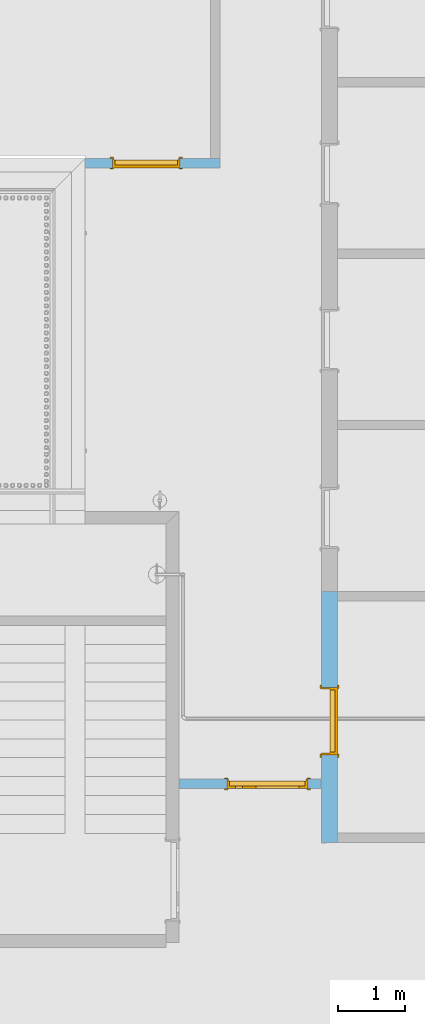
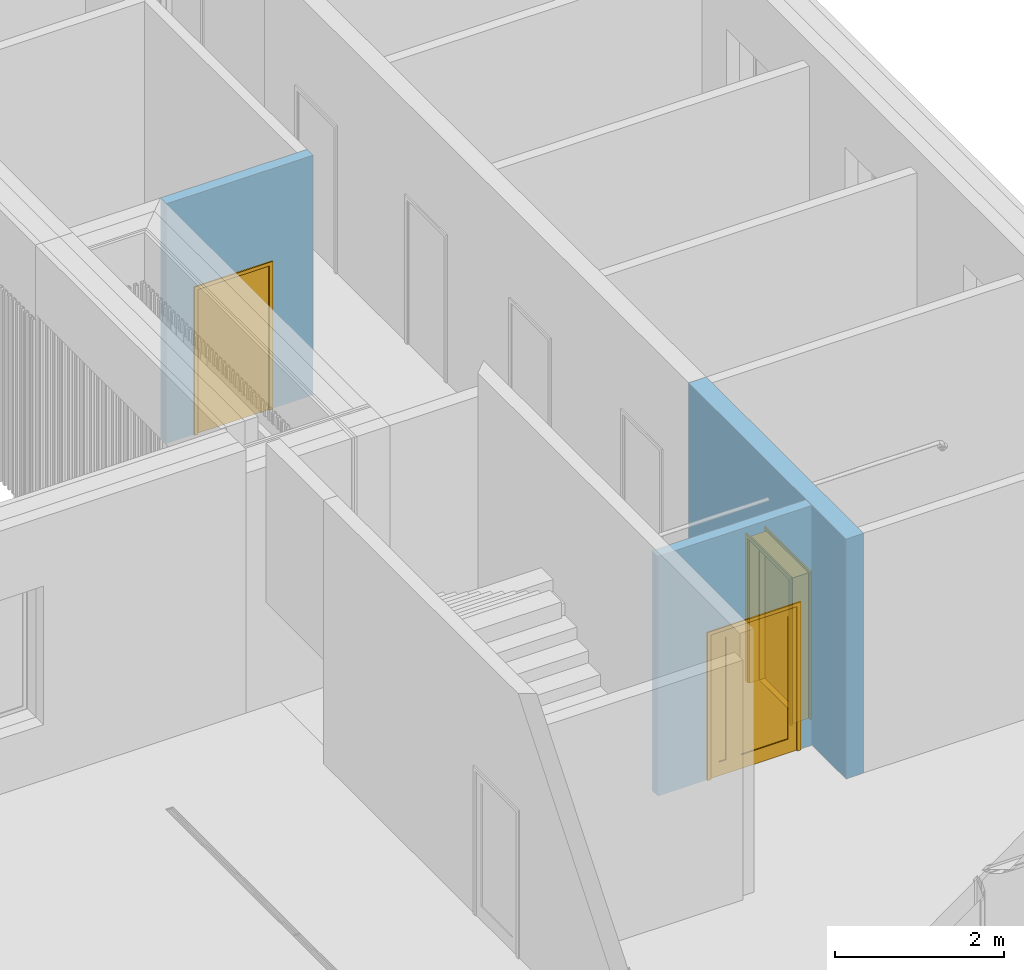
# One storey, part 46 of 112: 3 doors, 3 openings, plus 3 elements that do not belong to this part.
"""IFC2X3 building model written with IfcOpenShell, lengths in millimetres."""

from ifc_helpers import new_model, entity, si_unit, converted_unit, derived_unit, money_unit, direction, frame, origin_with_axes, origin_2d_with_axis, place, context, subcontext, project, spatial, polyline, rectangle, outline, extrude, open_shell, faceted_brep, surface_model, material, layer, layer_set, layer_usage, type_object, element, fill, save


model = new_model("IFC2X3")

# Units and contexts
model_context = context("Model", 3, precision=0.01, world=origin_with_axes(), true_north=direction((0.0, 1.0)))
body_context = subcontext(model_context, "Body", "Model", "MODEL_VIEW")
ifc_project = project(units=[si_unit("LENGTHUNIT", "METRE", prefix="MILLI"), si_unit("AREAUNIT", "SQUARE_METRE"), si_unit("VOLUMEUNIT", "CUBIC_METRE"), converted_unit("PLANEANGLEUNIT", "DEGREE", entity("IfcPlaneAngleMeasure", 0.0174532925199), si_unit("PLANEANGLEUNIT", "RADIAN"), dimensions=[0, 0, 0, 0, 0, 0, 0]), si_unit("SOLIDANGLEUNIT", "STERADIAN"), money_unit("EUR"), converted_unit("TIMEUNIT", "Year", entity("IfcTimeMeasure", 31556926.0), si_unit("TIMEUNIT", "SECOND"), dimensions=[0, 0, 1, 0, 0, 0, 0]), si_unit("MASSUNIT", "GRAM", prefix="KILO"), si_unit("THERMODYNAMICTEMPERATUREUNIT", "DEGREE_CELSIUS"), si_unit("LUMINOUSINTENSITYUNIT", "LUMEN"), si_unit("ENERGYUNIT", "JOULE", prefix="MEGA"), derived_unit("THERMALCONDUCTANCEUNIT", [(si_unit("POWERUNIT", "WATT"), 1), (si_unit("LENGTHUNIT", "METRE"), -1), (si_unit("THERMODYNAMICTEMPERATUREUNIT", "KELVIN"), -1)]), derived_unit("SPECIFICHEATCAPACITYUNIT", [(si_unit("ENERGYUNIT", "JOULE"), 1), (si_unit("MASSUNIT", "GRAM", prefix="KILO"), -1), (si_unit("THERMODYNAMICTEMPERATUREUNIT", "KELVIN"), -1)]), derived_unit("MASSDENSITYUNIT", [(si_unit("MASSUNIT", "GRAM", prefix="KILO"), 1), (si_unit("VOLUMEUNIT", "CUBIC_METRE"), -1)])], contexts=[model_context])

# Site, building, storey
site_placement = place(None, origin_with_axes())
site = spatial("IfcSite", under=ifc_project, at=site_placement, Name="Politse- ja Piirivalveameti ning Päästeameti ühishoone", CompositionType="ELEMENT")
building_placement = place(site_placement, origin_with_axes())
building = spatial("IfcBuilding", under=site, at=building_placement, Name="Politse- ja Piirivalveameti ning Päästeameti ühishoone", CompositionType="ELEMENT")
storey_placement = place(building_placement, origin_with_axes())
storey = spatial("IfcBuildingStorey", under=building, at=storey_placement, Name="Esimene korrus", CompositionType="ELEMENT", Elevation=0.0)

# Wall, opening, door
ifc_material = material(Name="KON-05_Betoon Plokk - Konstuktsioon")
ifc_layer_1 = layer(ifc_material, 240.0, ventilated="UNKNOWN")
ifc_layer_set_1 = layer_set([ifc_layer_1], Name="SS-04_Sisesein 240")
ifc_layer_usage_1 = layer_usage(ifc_layer_set_1, "AXIS2", "NEGATIVE", 240.0)
wall_type_1 = type_object("IfcWallType", Name="SS-04_Sisesein 240 240", PredefinedType="NOTDEFINED")
wall_1_placement = place(storey_placement, frame((65160.5595507, 19999.809139, 0.0), z_axis=(0.0, 0.0, 1.0), x_axis=(0.0, -1.0, 0.0)))
wall_1 = element("IfcWallStandardCase", 1, at=wall_1_placement, inside=storey, type_object=wall_type_1, material=ifc_layer_usage_1, Name="SS-04", context=body_context, shape_type="SweptSolid", body=[
    extrude(outline(polyline([(0.0, 0.0), (3722.0, 0.0), (3717.0, 240.0), (0.0, 240.0), (0.0, 0.0)])), origin_with_axes(), (0.0, 0.0, 1.0), 3460.0),
])
opening_1_placement = place(wall_1_placement, frame((1918.0, 0.0, 0.0), z_axis=(0.0, 0.0, 1.0), x_axis=(1.0, 0.0, 0.0)))
opening_1 = element("IfcOpeningElement", 2, at=opening_1_placement, cuts=wall_1, Name="TU-01-8", context=body_context, shape_type="SweptSolid", body=[
    extrude(rectangle(XDim=1000.0, YDim=2100.0, at=origin_2d_with_axis()), frame((0.0, -240.0, 1050.0), z_axis=(0.0, -1.0, 0.0), x_axis=(-1.0, 0.0, 0.0)), (0.0, 0.0, -1.0), 720.0),
    extrude(rectangle(XDim=1074.0, YDim=2137.0, at=origin_2d_with_axis()), frame((0.0, 0.0, 1068.5), z_axis=(0.0, -1.0, 0.0), x_axis=(-1.0, 0.0, 0.0)), (0.0, 0.0, 1.0), 240.0),
    extrude(rectangle(XDim=1074.0, YDim=2137.0, at=origin_2d_with_axis()), frame((0.0, 240.0, 1068.5), z_axis=(0.0, 1.0, 0.0), x_axis=(-1.0, 0.0, 0.0)), (0.0, 0.0, 1.0), 240.0),
])
door_style_1 = type_object("IfcDoorStyle", Name="Door 23", ConstructionType="NOTDEFINED", OperationType="SINGLE_SWING_LEFT", ParameterTakesPrecedence=False, Sizeable=False)
door_1_placement = place(opening_1_placement, frame((-500.0, 0.0, 0.0), z_axis=(0.0, 0.0, 1.0), x_axis=(1.0, 0.0, 0.0)))
door_1 = element("IfcDoor", 3, at=door_1_placement, inside=storey, type_object=door_style_1, Name="TU-01-8", ObjectType="DOOR", OverallHeight=2100.0, OverallWidth=1000.0, context=body_context, shape_type="Brep", body=[
    faceted_brep([(28.0, 200.0, 0.0), (40.0, 200.0, 0.0), (40.0, 200.0, 12.0), (28.0, 200.0, 12.0), (972.0, 200.0, 0.0), (960.0, 200.0, 0.0), (960.0, 125.0, 0.0), (40.0, 125.0, 0.0), (40.0, 125.0, 12.0), (960.0, 125.0, 12.0), (960.0, 200.0, 12.0), (972.0, 200.0, 12.0)], [[[0, 1, 2, 3]], [[0, 4, 5, 6, 7, 1]], [[1, 7, 8, 2]], [[3, 2, 8, 9, 10, 11]], [[4, 0, 3, 11]], [[5, 4, 11, 10]], [[6, 5, 10, 9]], [[7, 6, 9, 8]]]),
    faceted_brep([(1000.0, 125.0, 0.0), (1000.0, 0.0, 0.0), (975.0, 0.0, 0.0), (975.0, 125.0, 0.0), (1000.0, 125.0, 2100.0), (1000.0, 0.0, 2100.0), (975.0, 0.0, 2075.0), (975.0, 125.0, 2075.0)], [[[0, 1, 2, 3]], [[4, 5, 1, 0]], [[1, 5, 6, 2]], [[3, 2, 6, 7]], [[0, 3, 7, 4]], [[7, 6, 5, 4]]]),
    faceted_brep([(0.0, 125.0, 2100.0), (0.0, 0.0, 2100.0), (25.0, 0.0, 2075.0), (25.0, 125.0, 2075.0), (0.0, 125.0, 0.0), (0.0, 0.0, 0.0), (25.0, 0.0, 0.0), (25.0, 125.0, 0.0)], [[[0, 1, 2, 3]], [[4, 5, 1, 0]], [[1, 5, 6, 2]], [[3, 2, 6, 7]], [[0, 3, 7, 4]], [[7, 6, 5, 4]]]),
    faceted_brep([(975.0, 125.0, 2075.0), (975.0, 0.0, 2075.0), (25.0, 0.0, 2075.0), (25.0, 125.0, 2075.0), (1000.0, 125.0, 2100.0), (1000.0, 0.0, 2100.0), (0.0, 0.0, 2100.0), (0.0, 125.0, 2100.0)], [[[0, 1, 2, 3]], [[4, 5, 1, 0]], [[1, 5, 6, 2]], [[3, 2, 6, 7]], [[0, 3, 7, 4]], [[7, 6, 5, 4]]]),
    faceted_brep([(1037.0, -19.0, 0.0), (987.0, -19.0, 0.0), (987.0, 0.0, 0.0), (1037.0, 0.0, 0.0), (1037.0, -19.0, 2137.0), (987.0, -19.0, 2087.0), (987.0, 0.0, 2087.0), (1037.0, 0.0, 2137.0)], [[[0, 1, 2, 3]], [[0, 4, 5, 1]], [[1, 5, 6, 2]], [[3, 2, 6, 7]], [[4, 0, 3, 7]], [[5, 4, 7, 6]]]),
    faceted_brep([(-37.0, -19.0, 2137.0), (13.0, -19.0, 2087.0), (13.0, 0.0, 2087.0), (-37.0, 0.0, 2137.0), (-37.0, -19.0, 0.0), (13.0, -19.0, 0.0), (13.0, 0.0, 0.0), (-37.0, 0.0, 0.0)], [[[0, 1, 2, 3]], [[0, 4, 5, 1]], [[1, 5, 6, 2]], [[3, 2, 6, 7]], [[4, 0, 3, 7]], [[5, 4, 7, 6]]]),
    faceted_brep([(1037.0, -19.0, 2137.0), (987.0, -19.0, 2087.0), (987.0, 0.0, 2087.0), (1037.0, 0.0, 2137.0), (-37.0, -19.0, 2137.0), (13.0, -19.0, 2087.0), (13.0, 0.0, 2087.0), (-37.0, 0.0, 2137.0)], [[[0, 1, 2, 3]], [[0, 4, 5, 1]], [[1, 5, 6, 2]], [[3, 2, 6, 7]], [[4, 0, 3, 7]], [[5, 4, 7, 6]]]),
    faceted_brep([(1037.0, 259.0, 0.0), (1037.0, 240.0, 0.0), (987.0, 240.0, 0.0), (987.0, 259.0, 0.0), (1037.0, 259.0, 2137.0), (1037.0, 240.0, 2137.0), (987.0, 240.0, 2087.0), (987.0, 259.0, 2087.0)], [[[0, 1, 2, 3]], [[4, 5, 1, 0]], [[1, 5, 6, 2]], [[3, 2, 6, 7]], [[0, 3, 7, 4]], [[7, 6, 5, 4]]]),
    faceted_brep([(-37.0, 259.0, 2137.0), (-37.0, 240.0, 2137.0), (13.0, 240.0, 2087.0), (13.0, 259.0, 2087.0), (-37.0, 259.0, 0.0), (-37.0, 240.0, 0.0), (13.0, 240.0, 0.0), (13.0, 259.0, 0.0)], [[[0, 1, 2, 3]], [[4, 5, 1, 0]], [[1, 5, 6, 2]], [[3, 2, 6, 7]], [[0, 3, 7, 4]], [[7, 6, 5, 4]]]),
    faceted_brep([(1037.0, 259.0, 2137.0), (1037.0, 240.0, 2137.0), (987.0, 240.0, 2087.0), (987.0, 259.0, 2087.0), (-37.0, 259.0, 2137.0), (-37.0, 240.0, 2137.0), (13.0, 240.0, 2087.0), (13.0, 259.0, 2087.0)], [[[0, 1, 2, 3]], [[4, 5, 1, 0]], [[1, 5, 6, 2]], [[3, 2, 6, 7]], [[0, 3, 7, 4]], [[7, 6, 5, 4]]]),
    faceted_brep([(960.0, 200.0, 0.0), (960.0, 125.0, 0.0), (960.0, 125.0, 2060.0), (960.0, 200.0, 2060.0), (972.0, 200.0, 0.0), (972.0, 240.0, 0.0), (1000.0, 240.0, 0.0), (1000.0, 125.0, 0.0), (1000.0, 125.0, 2060.0), (972.0, 200.0, 2060.0), (1000.0, 240.0, 2060.0), (972.0, 240.0, 2060.0)], [[[0, 1, 2, 3]], [[4, 5, 6, 7, 1, 0]], [[1, 7, 8, 2]], [[9, 3, 2, 8, 10, 11]], [[9, 4, 0, 3]], [[11, 5, 4, 9]], [[11, 10, 6, 5]], [[6, 10, 8, 7]]]),
    faceted_brep([(28.0, 200.0, 2060.0), (28.0, 240.0, 2060.0), (0.0, 240.0, 2060.0), (0.0, 125.0, 2060.0), (40.0, 125.0, 2060.0), (40.0, 200.0, 2060.0), (28.0, 200.0, 0.0), (28.0, 240.0, 0.0), (0.0, 240.0, 0.0), (0.0, 125.0, 0.0), (40.0, 125.0, 0.0), (40.0, 200.0, 0.0)], [[[0, 1, 2, 3, 4, 5]], [[0, 6, 7, 1]], [[7, 8, 2, 1]], [[2, 8, 9, 3]], [[3, 9, 10, 4]], [[5, 4, 10, 11]], [[5, 11, 6, 0]], [[6, 11, 10, 9, 8, 7]]]),
    faceted_brep([(972.0, 240.0, 2072.0), (28.0, 240.0, 2072.0), (28.0, 240.0, 2060.0), (0.0, 240.0, 2060.0), (0.0, 240.0, 2100.0), (1000.0, 240.0, 2100.0), (1000.0, 240.0, 2060.0), (972.0, 240.0, 2060.0), (972.0, 200.0, 2072.0), (28.0, 200.0, 2072.0), (28.0, 200.0, 2060.0), (40.0, 200.0, 2060.0), (40.0, 125.0, 2060.0), (0.0, 125.0, 2060.0), (0.0, 125.0, 2100.0), (1000.0, 125.0, 2100.0), (1000.0, 125.0, 2060.0), (972.0, 200.0, 2060.0), (960.0, 125.0, 2060.0), (960.0, 200.0, 2060.0)], [[[0, 1, 2, 3, 4, 5, 6, 7]], [[0, 8, 9, 1]], [[1, 9, 10, 2]], [[10, 11, 12, 13, 3, 2]], [[4, 3, 13, 14]], [[5, 4, 14, 15]], [[6, 5, 15, 16]], [[17, 7, 6, 16, 18, 19]], [[7, 17, 8, 0]], [[10, 9, 8, 17, 19, 11]], [[19, 18, 12, 11]], [[12, 18, 16, 15, 14, 13]]]),
    faceted_brep([(28.0, 240.0, 0.0), (972.0, 240.0, 0.0), (972.0, 200.0, 0.0), (28.0, 200.0, 0.0), (28.0, 240.0, 2072.0), (972.0, 240.0, 2072.0), (972.0, 200.0, 2072.0), (28.0, 200.0, 2072.0)], [[[0, 1, 2, 3]], [[0, 4, 5, 1]], [[1, 5, 6, 2]], [[3, 2, 6, 7]], [[4, 0, 3, 7]], [[5, 4, 7, 6]]]),
])
fill(opening_1, door_1)

ifc_layer_2 = layer(ifc_material, 140.0, ventilated="UNKNOWN")
ifc_layer_set_2 = layer_set([ifc_layer_2], Name="SS-02_Sisesein 140")
ifc_layer_usage_2 = layer_usage(ifc_layer_set_2, "AXIS2", "NEGATIVE", 140.0)
wall_type_2 = type_object("IfcWallType", Name="SS-02_Sisesein 140 140", PredefinedType="NOTDEFINED")
wall_2_placement = place(storey_placement, frame((63660.557259, 26419.9520832, 0.0), z_axis=(0.0, 0.0, 1.0), x_axis=(-1.0, 0.0, 0.0)))
wall_2 = element("IfcWallStandardCase", 4, at=wall_2_placement, inside=storey, type_object=wall_type_2, material=ifc_layer_usage_2, Name="SS-02", context=body_context, shape_type="SweptSolid", body=[
    extrude(outline(polyline([(0.0, 0.0), (2000.00534722, 0.0), (2000.00534722, 140.0), (0.0, 140.0), (0.0, 0.0)])), origin_with_axes(), (0.0, 0.0, 1.0), 3460.0),
])
opening_2_placement = place(wall_2_placement, frame((1095.00267361, 0.0, 0.0), z_axis=(0.0, 0.0, 1.0), x_axis=(1.0, 0.0, 0.0)))
opening_2 = element("IfcOpeningElement", 5, at=opening_2_placement, cuts=wall_2, Name="TU-01-8", context=body_context, shape_type="SweptSolid", body=[
    extrude(rectangle(XDim=1000.0, YDim=2100.0, at=origin_2d_with_axis()), frame((0.0, -140.0, 1050.0), z_axis=(0.0, -1.0, 0.0), x_axis=(-1.0, 0.0, 0.0)), (0.0, 0.0, -1.0), 420.0),
    extrude(rectangle(XDim=1074.0, YDim=2137.0, at=origin_2d_with_axis()), frame((0.0, 0.0, 1068.5), z_axis=(0.0, -1.0, 0.0), x_axis=(-1.0, 0.0, 0.0)), (0.0, 0.0, 1.0), 140.0),
    extrude(rectangle(XDim=1074.0, YDim=2137.0, at=origin_2d_with_axis()), frame((0.0, 140.0, 1068.5), z_axis=(0.0, 1.0, 0.0), x_axis=(-1.0, 0.0, 0.0)), (0.0, 0.0, 1.0), 140.0),
])
door_2_placement = place(opening_2_placement, frame((-500.0, 0.0, 0.0), z_axis=(0.0, 0.0, 1.0), x_axis=(1.0, 0.0, 0.0)))
door_2 = element("IfcDoor", 6, at=door_2_placement, inside=storey, type_object=door_style_1, Name="TU-01-8", ObjectType="DOOR", OverallHeight=2100.0, OverallWidth=1000.0, context=body_context, shape_type="Brep", body=[
    faceted_brep([(28.0, 100.0, 0.0), (40.0, 100.0, 0.0), (40.0, 100.0, 12.0), (28.0, 100.0, 12.0), (972.0, 100.0, 0.0), (960.0, 100.0, 0.0), (960.0, 25.0, 0.0), (40.0, 25.0, 0.0), (40.0, 25.0, 12.0), (960.0, 25.0, 12.0), (960.0, 100.0, 12.0), (972.0, 100.0, 12.0)], [[[0, 1, 2, 3]], [[0, 4, 5, 6, 7, 1]], [[1, 7, 8, 2]], [[3, 2, 8, 9, 10, 11]], [[4, 0, 3, 11]], [[5, 4, 11, 10]], [[6, 5, 10, 9]], [[7, 6, 9, 8]]]),
    faceted_brep([(1000.0, 25.0, 0.0), (1000.0, 0.0, 0.0), (975.0, 0.0, 0.0), (975.0, 25.0, 0.0), (1000.0, 25.0, 2100.0), (1000.0, 0.0, 2100.0), (975.0, 0.0, 2075.0), (975.0, 25.0, 2075.0)], [[[0, 1, 2, 3]], [[4, 5, 1, 0]], [[1, 5, 6, 2]], [[3, 2, 6, 7]], [[0, 3, 7, 4]], [[7, 6, 5, 4]]]),
    faceted_brep([(0.0, 25.0, 2100.0), (0.0, 0.0, 2100.0), (25.0, 0.0, 2075.0), (25.0, 25.0, 2075.0), (0.0, 25.0, 0.0), (0.0, 0.0, 0.0), (25.0, 0.0, 0.0), (25.0, 25.0, 0.0)], [[[0, 1, 2, 3]], [[4, 5, 1, 0]], [[1, 5, 6, 2]], [[3, 2, 6, 7]], [[0, 3, 7, 4]], [[7, 6, 5, 4]]]),
    faceted_brep([(975.0, 25.0, 2075.0), (975.0, 0.0, 2075.0), (25.0, 0.0, 2075.0), (25.0, 25.0, 2075.0), (1000.0, 25.0, 2100.0), (1000.0, 0.0, 2100.0), (0.0, 0.0, 2100.0), (0.0, 25.0, 2100.0)], [[[0, 1, 2, 3]], [[4, 5, 1, 0]], [[1, 5, 6, 2]], [[3, 2, 6, 7]], [[0, 3, 7, 4]], [[7, 6, 5, 4]]]),
    faceted_brep([(1037.0, -19.0, 0.0), (987.0, -19.0, 0.0), (987.0, 0.0, 0.0), (1037.0, 0.0, 0.0), (1037.0, -19.0, 2137.0), (987.0, -19.0, 2087.0), (987.0, 0.0, 2087.0), (1037.0, 0.0, 2137.0)], [[[0, 1, 2, 3]], [[0, 4, 5, 1]], [[1, 5, 6, 2]], [[3, 2, 6, 7]], [[4, 0, 3, 7]], [[5, 4, 7, 6]]]),
    faceted_brep([(-37.0, -19.0, 2137.0), (13.0, -19.0, 2087.0), (13.0, 0.0, 2087.0), (-37.0, 0.0, 2137.0), (-37.0, -19.0, 0.0), (13.0, -19.0, 0.0), (13.0, 0.0, 0.0), (-37.0, 0.0, 0.0)], [[[0, 1, 2, 3]], [[0, 4, 5, 1]], [[1, 5, 6, 2]], [[3, 2, 6, 7]], [[4, 0, 3, 7]], [[5, 4, 7, 6]]]),
    faceted_brep([(1037.0, -19.0, 2137.0), (987.0, -19.0, 2087.0), (987.0, 0.0, 2087.0), (1037.0, 0.0, 2137.0), (-37.0, -19.0, 2137.0), (13.0, -19.0, 2087.0), (13.0, 0.0, 2087.0), (-37.0, 0.0, 2137.0)], [[[0, 1, 2, 3]], [[0, 4, 5, 1]], [[1, 5, 6, 2]], [[3, 2, 6, 7]], [[4, 0, 3, 7]], [[5, 4, 7, 6]]]),
    faceted_brep([(1037.0, 159.0, 0.0), (1037.0, 140.0, 0.0), (987.0, 140.0, 0.0), (987.0, 159.0, 0.0), (1037.0, 159.0, 2137.0), (1037.0, 140.0, 2137.0), (987.0, 140.0, 2087.0), (987.0, 159.0, 2087.0)], [[[0, 1, 2, 3]], [[4, 5, 1, 0]], [[1, 5, 6, 2]], [[3, 2, 6, 7]], [[0, 3, 7, 4]], [[7, 6, 5, 4]]]),
    faceted_brep([(-37.0, 159.0, 2137.0), (-37.0, 140.0, 2137.0), (13.0, 140.0, 2087.0), (13.0, 159.0, 2087.0), (-37.0, 159.0, 0.0), (-37.0, 140.0, 0.0), (13.0, 140.0, 0.0), (13.0, 159.0, 0.0)], [[[0, 1, 2, 3]], [[4, 5, 1, 0]], [[1, 5, 6, 2]], [[3, 2, 6, 7]], [[0, 3, 7, 4]], [[7, 6, 5, 4]]]),
    faceted_brep([(1037.0, 159.0, 2137.0), (1037.0, 140.0, 2137.0), (987.0, 140.0, 2087.0), (987.0, 159.0, 2087.0), (-37.0, 159.0, 2137.0), (-37.0, 140.0, 2137.0), (13.0, 140.0, 2087.0), (13.0, 159.0, 2087.0)], [[[0, 1, 2, 3]], [[4, 5, 1, 0]], [[1, 5, 6, 2]], [[3, 2, 6, 7]], [[0, 3, 7, 4]], [[7, 6, 5, 4]]]),
    faceted_brep([(960.0, 100.0, 0.0), (960.0, 25.0, 0.0), (960.0, 25.0, 2060.0), (960.0, 100.0, 2060.0), (972.0, 100.0, 0.0), (972.0, 140.0, 0.0), (1000.0, 140.0, 0.0), (1000.0, 25.0, 0.0), (1000.0, 25.0, 2060.0), (972.0, 100.0, 2060.0), (1000.0, 140.0, 2060.0), (972.0, 140.0, 2060.0)], [[[0, 1, 2, 3]], [[4, 5, 6, 7, 1, 0]], [[1, 7, 8, 2]], [[9, 3, 2, 8, 10, 11]], [[9, 4, 0, 3]], [[11, 5, 4, 9]], [[11, 10, 6, 5]], [[6, 10, 8, 7]]]),
    faceted_brep([(28.0, 100.0, 2060.0), (28.0, 140.0, 2060.0), (0.0, 140.0, 2060.0), (0.0, 25.0, 2060.0), (40.0, 25.0, 2060.0), (40.0, 100.0, 2060.0), (28.0, 100.0, 0.0), (28.0, 140.0, 0.0), (0.0, 140.0, 0.0), (0.0, 25.0, 0.0), (40.0, 25.0, 0.0), (40.0, 100.0, 0.0)], [[[0, 1, 2, 3, 4, 5]], [[0, 6, 7, 1]], [[7, 8, 2, 1]], [[2, 8, 9, 3]], [[3, 9, 10, 4]], [[5, 4, 10, 11]], [[5, 11, 6, 0]], [[6, 11, 10, 9, 8, 7]]]),
    faceted_brep([(972.0, 140.0, 2072.0), (28.0, 140.0, 2072.0), (28.0, 140.0, 2060.0), (0.0, 140.0, 2060.0), (0.0, 140.0, 2100.0), (1000.0, 140.0, 2100.0), (1000.0, 140.0, 2060.0), (972.0, 140.0, 2060.0), (972.0, 100.0, 2072.0), (28.0, 100.0, 2072.0), (28.0, 100.0, 2060.0), (40.0, 100.0, 2060.0), (40.0, 25.0, 2060.0), (0.0, 25.0, 2060.0), (0.0, 25.0, 2100.0), (1000.0, 25.0, 2100.0), (1000.0, 25.0, 2060.0), (972.0, 100.0, 2060.0), (960.0, 25.0, 2060.0), (960.0, 100.0, 2060.0)], [[[0, 1, 2, 3, 4, 5, 6, 7]], [[0, 8, 9, 1]], [[1, 9, 10, 2]], [[10, 11, 12, 13, 3, 2]], [[4, 3, 13, 14]], [[5, 4, 14, 15]], [[6, 5, 15, 16]], [[17, 7, 6, 16, 18, 19]], [[7, 17, 8, 0]], [[10, 9, 8, 17, 19, 11]], [[19, 18, 12, 11]], [[12, 18, 16, 15, 14, 13]]]),
    faceted_brep([(28.0, 140.0, 0.0), (972.0, 140.0, 0.0), (972.0, 100.0, 0.0), (28.0, 100.0, 0.0), (28.0, 140.0, 2072.0), (972.0, 140.0, 2072.0), (972.0, 100.0, 2072.0), (28.0, 100.0, 2072.0)], [[[0, 1, 2, 3]], [[0, 4, 5, 1]], [[1, 5, 6, 2]], [[3, 2, 6, 7]], [[4, 0, 3, 7]], [[5, 4, 7, 6]]]),
])
fill(opening_2, door_2)

ifc_layer_usage_3 = layer_usage(ifc_layer_set_2, "AXIS2", "NEGATIVE", 140.0)
wall_3_placement = place(storey_placement, frame((65160.5595507, 17222.809139, 0.0), z_axis=(0.0, 0.0, 1.0), x_axis=(-1.0, 0.0, 0.0)))
wall_3 = element("IfcWallStandardCase", 7, at=wall_3_placement, inside=storey, type_object=wall_type_2, material=ifc_layer_usage_3, Name="SS-02", context=body_context, shape_type="SweptSolid", body=[
    extrude(outline(polyline([(5.0, 0.0), (2105.00229167, 0.0), (2105.00229167, 140.0), (5.0, 140.0), (5.0, 0.0)])), origin_with_axes(), (0.0, 0.0, 1.0), 3460.0),
])
opening_3_placement = place(wall_3_placement, frame((800.0, 0.0, 0.0), z_axis=(0.0, 0.0, 1.0), x_axis=(1.0, 0.0, 0.0)))
opening_3 = element("IfcOpeningElement", 8, at=opening_3_placement, cuts=wall_3, Name="TU-01-4", context=body_context, shape_type="SweptSolid", body=[
    extrude(rectangle(XDim=1200.0, YDim=2100.0, at=origin_2d_with_axis()), frame((0.0, -140.0, 1050.0), z_axis=(0.0, 1.0, 0.0), x_axis=(1.0, 0.0, 0.0)), (0.0, 0.0, 1.0), 420.0),
    extrude(rectangle(XDim=1274.0, YDim=2137.0, at=origin_2d_with_axis()), frame((0.0, 0.0, 1068.5), z_axis=(0.0, 1.0, 0.0), x_axis=(1.0, 0.0, 0.0)), (0.0, 0.0, -1.0), 140.0),
    extrude(rectangle(XDim=1274.0, YDim=2137.0, at=origin_2d_with_axis()), frame((0.0, 140.0, 1068.5), z_axis=(0.0, -1.0, 0.0), x_axis=(1.0, 0.0, 0.0)), (0.0, 0.0, -1.0), 140.0),
])
door_style_2 = type_object("IfcDoorStyle", Name="Double Door Asymmetric 23", ConstructionType="NOTDEFINED", OperationType="DOUBLE_DOOR_SINGLE_SWING", ParameterTakesPrecedence=False, Sizeable=False)
door_3_placement = place(opening_3_placement, frame((-600.0, 0.0, 0.0), z_axis=(0.0, 0.0, 1.0), x_axis=(1.0, 0.0, 0.0)))
door_3 = element("IfcDoor", 9, at=door_3_placement, inside=storey, type_object=door_style_2, Name="TU-01-4", ObjectType="DOOR", OverallHeight=2100.0, OverallWidth=1200.0, context=body_context, shape_type="SurfaceModel", body=[
    faceted_brep([(1172.0, 100.0, 0.0), (1172.0, 100.0, 12.0), (1160.0, 100.0, 12.0), (1160.0, 100.0, 0.0), (28.0, 100.0, 0.0), (28.0, 100.0, 12.0), (40.0, 100.0, 12.0), (40.0, 25.0, 12.0), (1160.0, 25.0, 12.0), (1160.0, 25.0, 0.0), (40.0, 25.0, 0.0), (40.0, 100.0, 0.0)], [[[0, 1, 2, 3]], [[4, 5, 1, 0]], [[1, 5, 6, 7, 8, 2]], [[3, 2, 8, 9]], [[0, 3, 9, 10, 11, 4]], [[11, 6, 5, 4]], [[10, 7, 6, 11]], [[9, 8, 7, 10]]]),
    faceted_brep([(0.0, 25.0, 0.0), (25.0, 25.0, 0.0), (25.0, 0.0, 0.0), (0.0, 0.0, 0.0), (0.0, 25.0, 2100.0), (25.0, 25.0, 2075.0), (25.0, 0.0, 2075.0), (0.0, 0.0, 2100.0)], [[[0, 1, 2, 3]], [[0, 4, 5, 1]], [[1, 5, 6, 2]], [[3, 2, 6, 7]], [[4, 0, 3, 7]], [[5, 4, 7, 6]]]),
    faceted_brep([(1200.0, 25.0, 2100.0), (1175.0, 25.0, 2075.0), (1175.0, 0.0, 2075.0), (1200.0, 0.0, 2100.0), (1200.0, 25.0, 0.0), (1175.0, 25.0, 0.0), (1175.0, 0.0, 0.0), (1200.0, 0.0, 0.0)], [[[0, 1, 2, 3]], [[0, 4, 5, 1]], [[1, 5, 6, 2]], [[3, 2, 6, 7]], [[4, 0, 3, 7]], [[5, 4, 7, 6]]]),
    faceted_brep([(25.0, 25.0, 2075.0), (1175.0, 25.0, 2075.0), (1175.0, 0.0, 2075.0), (25.0, 0.0, 2075.0), (0.0, 25.0, 2100.0), (1200.0, 25.0, 2100.0), (1200.0, 0.0, 2100.0), (0.0, 0.0, 2100.0)], [[[0, 1, 2, 3]], [[0, 4, 5, 1]], [[1, 5, 6, 2]], [[3, 2, 6, 7]], [[4, 0, 3, 7]], [[5, 4, 7, 6]]]),
    faceted_brep([(-37.0, -19.0, 0.0), (-37.0, 0.0, 0.0), (13.0, 0.0, 0.0), (13.0, -19.0, 0.0), (-37.0, -19.0, 2137.0), (-37.0, 0.0, 2137.0), (13.0, 0.0, 2087.0), (13.0, -19.0, 2087.0)], [[[0, 1, 2, 3]], [[4, 5, 1, 0]], [[1, 5, 6, 2]], [[3, 2, 6, 7]], [[0, 3, 7, 4]], [[7, 6, 5, 4]]]),
    faceted_brep([(1237.0, -19.0, 2137.0), (1237.0, 0.0, 2137.0), (1187.0, 0.0, 2087.0), (1187.0, -19.0, 2087.0), (1237.0, -19.0, 0.0), (1237.0, 0.0, 0.0), (1187.0, 0.0, 0.0), (1187.0, -19.0, 0.0)], [[[0, 1, 2, 3]], [[4, 5, 1, 0]], [[1, 5, 6, 2]], [[3, 2, 6, 7]], [[0, 3, 7, 4]], [[7, 6, 5, 4]]]),
    faceted_brep([(-37.0, -19.0, 2137.0), (-37.0, 0.0, 2137.0), (13.0, 0.0, 2087.0), (13.0, -19.0, 2087.0), (1237.0, -19.0, 2137.0), (1237.0, 0.0, 2137.0), (1187.0, 0.0, 2087.0), (1187.0, -19.0, 2087.0)], [[[0, 1, 2, 3]], [[4, 5, 1, 0]], [[1, 5, 6, 2]], [[3, 2, 6, 7]], [[0, 3, 7, 4]], [[7, 6, 5, 4]]]),
    faceted_brep([(-37.0, 159.0, 0.0), (13.0, 159.0, 0.0), (13.0, 140.0, 0.0), (-37.0, 140.0, 0.0), (-37.0, 159.0, 2137.0), (13.0, 159.0, 2087.0), (13.0, 140.0, 2087.0), (-37.0, 140.0, 2137.0)], [[[0, 1, 2, 3]], [[0, 4, 5, 1]], [[1, 5, 6, 2]], [[3, 2, 6, 7]], [[4, 0, 3, 7]], [[5, 4, 7, 6]]]),
    faceted_brep([(1237.0, 159.0, 2137.0), (1187.0, 159.0, 2087.0), (1187.0, 140.0, 2087.0), (1237.0, 140.0, 2137.0), (1237.0, 159.0, 0.0), (1187.0, 159.0, 0.0), (1187.0, 140.0, 0.0), (1237.0, 140.0, 0.0)], [[[0, 1, 2, 3]], [[0, 4, 5, 1]], [[1, 5, 6, 2]], [[3, 2, 6, 7]], [[4, 0, 3, 7]], [[5, 4, 7, 6]]]),
    faceted_brep([(-37.0, 159.0, 2137.0), (13.0, 159.0, 2087.0), (13.0, 140.0, 2087.0), (-37.0, 140.0, 2137.0), (1237.0, 159.0, 2137.0), (1187.0, 159.0, 2087.0), (1187.0, 140.0, 2087.0), (1237.0, 140.0, 2137.0)], [[[0, 1, 2, 3]], [[0, 4, 5, 1]], [[1, 5, 6, 2]], [[3, 2, 6, 7]], [[4, 0, 3, 7]], [[5, 4, 7, 6]]]),
    faceted_brep([(40.0, 100.0, 0.0), (40.0, 100.0, 2060.0), (40.0, 25.0, 2060.0), (40.0, 25.0, 0.0), (28.0, 100.0, 2060.0), (28.0, 100.0, 0.0), (28.0, 140.0, 2060.0), (0.0, 140.0, 2060.0), (0.0, 25.0, 2060.0), (0.0, 25.0, 0.0), (0.0, 140.0, 0.0), (28.0, 140.0, 0.0)], [[[0, 1, 2, 3]], [[4, 1, 0, 5]], [[4, 6, 7, 8, 2, 1]], [[3, 2, 8, 9]], [[5, 0, 3, 9, 10, 11]], [[6, 4, 5, 11]], [[6, 11, 10, 7]], [[10, 9, 8, 7]]]),
    faceted_brep([(1172.0, 100.0, 2060.0), (1160.0, 100.0, 2060.0), (1160.0, 25.0, 2060.0), (1200.0, 25.0, 2060.0), (1200.0, 140.0, 2060.0), (1172.0, 140.0, 2060.0), (1172.0, 100.0, 0.0), (1160.0, 100.0, 0.0), (1160.0, 25.0, 0.0), (1200.0, 25.0, 0.0), (1200.0, 140.0, 0.0), (1172.0, 140.0, 0.0)], [[[0, 1, 2, 3, 4, 5]], [[1, 0, 6, 7]], [[1, 7, 8, 2]], [[3, 2, 8, 9]], [[4, 3, 9, 10]], [[11, 5, 4, 10]], [[0, 5, 11, 6]], [[6, 11, 10, 9, 8, 7]]]),
    faceted_brep([(28.0, 140.0, 2072.0), (28.0, 140.0, 2060.0), (0.0, 140.0, 2060.0), (0.0, 140.0, 2100.0), (1200.0, 140.0, 2100.0), (1200.0, 140.0, 2060.0), (1172.0, 140.0, 2060.0), (1172.0, 140.0, 2072.0), (28.0, 100.0, 2072.0), (28.0, 100.0, 2060.0), (40.0, 100.0, 2060.0), (40.0, 25.0, 2060.0), (0.0, 25.0, 2060.0), (0.0, 25.0, 2100.0), (1200.0, 25.0, 2100.0), (1200.0, 25.0, 2060.0), (1172.0, 100.0, 2060.0), (1160.0, 25.0, 2060.0), (1160.0, 100.0, 2060.0), (1172.0, 100.0, 2072.0)], [[[0, 1, 2, 3, 4, 5, 6, 7]], [[1, 0, 8, 9]], [[9, 10, 11, 12, 2, 1]], [[2, 12, 13, 3]], [[3, 13, 14, 4]], [[4, 14, 15, 5]], [[16, 6, 5, 15, 17, 18]], [[7, 6, 16, 19]], [[0, 7, 19, 8]], [[16, 18, 10, 9, 8, 19]], [[10, 18, 17, 11]], [[17, 15, 14, 13, 12, 11]]]),
    faceted_brep([(1172.0, 140.0, 200.0), (1172.0, 100.0, 200.0), (1072.0, 100.0, 200.0), (1072.0, 140.0, 200.0), (1172.0, 140.0, 1972.0), (1172.0, 100.0, 1972.0), (1072.0, 100.0, 1972.0), (1072.0, 140.0, 1972.0)], [[[0, 1, 2, 3]], [[4, 5, 1, 0]], [[1, 5, 6, 2]], [[3, 2, 6, 7]], [[0, 3, 7, 4]], [[7, 6, 5, 4]]]),
    faceted_brep([(872.0, 140.0, 200.0), (872.0, 100.0, 200.0), (872.0, 100.0, 1972.0), (872.0, 140.0, 1972.0), (972.0, 140.0, 200.0), (972.0, 100.0, 200.0), (972.0, 100.0, 1972.0), (972.0, 140.0, 1972.0)], [[[0, 1, 2, 3]], [[4, 5, 1, 0]], [[1, 5, 6, 2]], [[3, 2, 6, 7]], [[0, 3, 7, 4]], [[7, 6, 5, 4]]]),
    faceted_brep([(1172.0, 140.0, 0.0), (1172.0, 100.0, 0.0), (872.0, 100.0, 0.0), (872.0, 140.0, 0.0), (1172.0, 140.0, 200.0), (1172.0, 100.0, 200.0), (1072.0, 100.0, 200.0), (972.0, 100.0, 200.0), (872.0, 100.0, 200.0), (872.0, 140.0, 200.0), (972.0, 140.0, 200.0), (1072.0, 140.0, 200.0)], [[[0, 1, 2, 3]], [[4, 5, 1, 0]], [[1, 5, 6, 7, 8, 2]], [[3, 2, 8, 9]], [[0, 3, 9, 10, 11, 4]], [[11, 6, 5, 4]], [[10, 7, 6, 11]], [[9, 8, 7, 10]]]),
    faceted_brep([(1172.0, 140.0, 2072.0), (1172.0, 100.0, 2072.0), (1172.0, 100.0, 1972.0), (1172.0, 140.0, 1972.0), (872.0, 140.0, 2072.0), (872.0, 100.0, 2072.0), (872.0, 100.0, 1972.0), (972.0, 100.0, 1972.0), (1072.0, 100.0, 1972.0), (1072.0, 140.0, 1972.0), (972.0, 140.0, 1972.0), (872.0, 140.0, 1972.0)], [[[0, 1, 2, 3]], [[4, 5, 1, 0]], [[1, 5, 6, 7, 8, 2]], [[3, 2, 8, 9]], [[0, 3, 9, 10, 11, 4]], [[11, 6, 5, 4]], [[10, 7, 6, 11]], [[9, 8, 7, 10]]]),
    surface_model("IfcShellBasedSurfaceModel", [(1072.0, 126.0, 200.0), (972.0, 126.0, 200.0), (972.0, 126.0, 1972.0), (1072.0, 126.0, 1972.0)], [open_shell([[[0, 1, 2, 3]]])]),
    surface_model("IfcShellBasedSurfaceModel", [(1072.0, 114.0, 200.0), (1072.0, 114.0, 1972.0), (972.0, 114.0, 1972.0), (972.0, 114.0, 200.0)], [open_shell([[[0, 1, 2, 3]]])]),
    faceted_brep([(28.0, 140.0, 200.0), (128.0, 140.0, 200.0), (128.0, 100.0, 200.0), (28.0, 100.0, 200.0), (28.0, 140.0, 1972.0), (128.0, 140.0, 1972.0), (128.0, 100.0, 1972.0), (28.0, 100.0, 1972.0)], [[[0, 1, 2, 3]], [[0, 4, 5, 1]], [[1, 5, 6, 2]], [[3, 2, 6, 7]], [[4, 0, 3, 7]], [[5, 4, 7, 6]]]),
    faceted_brep([(872.0, 140.0, 200.0), (872.0, 140.0, 1972.0), (872.0, 100.0, 1972.0), (872.0, 100.0, 200.0), (772.0, 140.0, 200.0), (772.0, 140.0, 1972.0), (772.0, 100.0, 1972.0), (772.0, 100.0, 200.0)], [[[0, 1, 2, 3]], [[0, 4, 5, 1]], [[1, 5, 6, 2]], [[3, 2, 6, 7]], [[4, 0, 3, 7]], [[5, 4, 7, 6]]]),
    faceted_brep([(28.0, 140.0, 0.0), (872.0, 140.0, 0.0), (872.0, 100.0, 0.0), (28.0, 100.0, 0.0), (28.0, 140.0, 200.0), (128.0, 140.0, 200.0), (772.0, 140.0, 200.0), (872.0, 140.0, 200.0), (872.0, 100.0, 200.0), (772.0, 100.0, 200.0), (128.0, 100.0, 200.0), (28.0, 100.0, 200.0)], [[[0, 1, 2, 3]], [[0, 4, 5, 6, 7, 1]], [[1, 7, 8, 2]], [[3, 2, 8, 9, 10, 11]], [[4, 0, 3, 11]], [[5, 4, 11, 10]], [[6, 5, 10, 9]], [[7, 6, 9, 8]]]),
    faceted_brep([(28.0, 140.0, 2072.0), (28.0, 140.0, 1972.0), (28.0, 100.0, 1972.0), (28.0, 100.0, 2072.0), (872.0, 140.0, 2072.0), (872.0, 140.0, 1972.0), (772.0, 140.0, 1972.0), (128.0, 140.0, 1972.0), (128.0, 100.0, 1972.0), (772.0, 100.0, 1972.0), (872.0, 100.0, 1972.0), (872.0, 100.0, 2072.0)], [[[0, 1, 2, 3]], [[0, 4, 5, 6, 7, 1]], [[1, 7, 8, 2]], [[3, 2, 8, 9, 10, 11]], [[4, 0, 3, 11]], [[5, 4, 11, 10]], [[6, 5, 10, 9]], [[7, 6, 9, 8]]]),
    surface_model("IfcShellBasedSurfaceModel", [(128.0, 126.0, 200.0), (128.0, 126.0, 1972.0), (772.0, 126.0, 1972.0), (772.0, 126.0, 200.0)], [open_shell([[[0, 1, 2, 3]]])]),
    surface_model("IfcShellBasedSurfaceModel", [(128.0, 114.0, 200.0), (772.0, 114.0, 200.0), (772.0, 114.0, 1972.0), (128.0, 114.0, 1972.0)], [open_shell([[[0, 1, 2, 3]]])]),
])
fill(opening_3, door_3)

save(model, "model.ifc")
